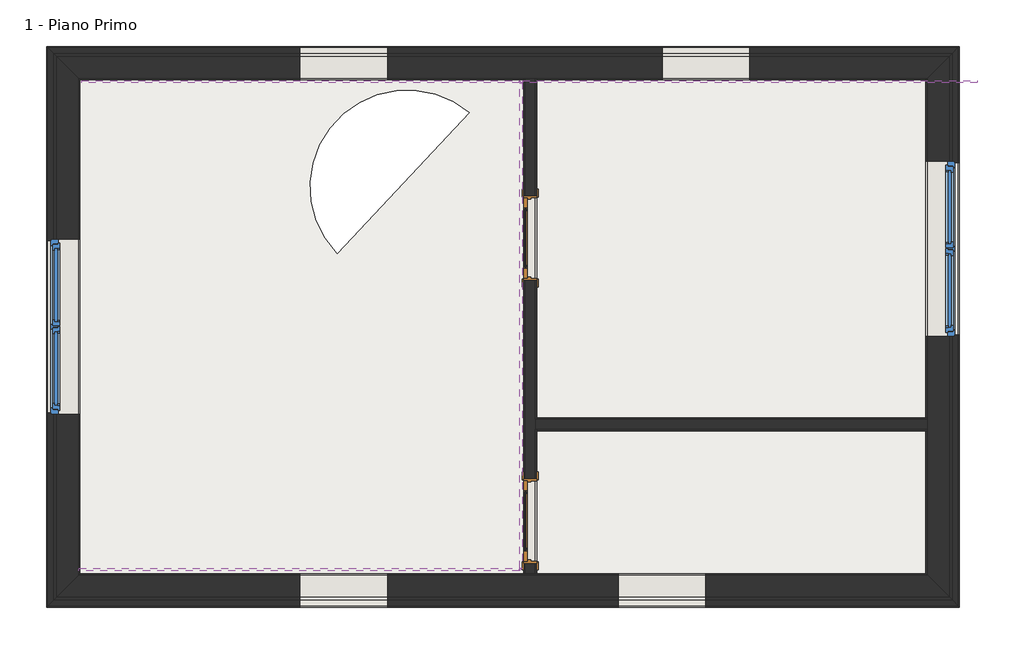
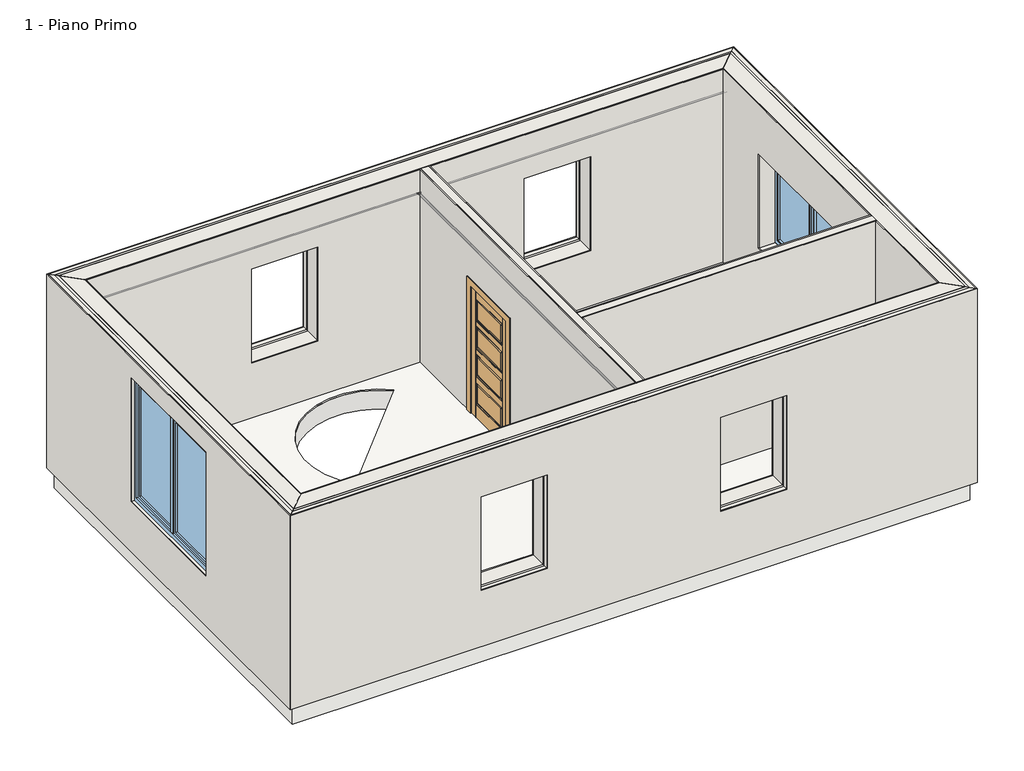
# One storey, incomplete: 6 walls, 4 pipe segments, 4 slabs, 2 doors, 2 pipe fittings, 2 windows.
"""IFC4 building model written with IfcOpenShell, lengths in millimetres."""

from ifc_helpers import new_model, si_unit, point, frame, frame_2d, origin, place, context, project, spatial, polyline, circle_curve, trimmed, segment, composite_curve, outline, extrude, faceted_brep, transform, mapped, element, save
from components import not_a_type_load_type_catalog_7697b4af, not_a_type_load_type_catalog_d574bbdc, m_gomito_generico_standard_738589b0, standard_5b2ed4d4, type_1_537f2f89, type_1_1d15f25d

model = new_model("IFC4")

# Units and contexts
model_context = context("Model", 3, world=origin())
ifc_project = project(units=[si_unit("LENGTHUNIT", "METRE", prefix="MILLI")], contexts=[model_context])

# Site, building, storey
site = spatial("IfcSite", under=ifc_project)
building = spatial("IfcBuilding", under=site)
storey = spatial("IfcBuildingStorey", under=building, Name="1 - Piano Primo", Elevation=3100.0)

# Doors
placement = place(None, origin())
not_a_type_load_type_catalog_shape = not_a_type_load_type_catalog_7697b4af(model_context)
not_a_type_load_type_catalog_2_shape = not_a_type_load_type_catalog_d574bbdc(model_context)
element("IfcDoor", 1, ObjectType="Door-Interior-Karona-K3040-4_Panel : Not A Type - Load Type Catalog", at=placement, inside=storey, context=model_context, shape_type="MappedRepresentation", body=[
    mapped(not_a_type_load_type_catalog_shape, transform((1674.6934329, 271.7316161, 3120.0), x_axis=(0.0, 1.0, 0.0), y_axis=(-1.0, 0.0, 0.0), z_axis=(0.0, 0.0, 1.0))),
    mapped(not_a_type_load_type_catalog_2_shape, transform((1674.6934329, 271.7316161, 3120.0), x_axis=(0.0, 1.0, 0.0), y_axis=(-1.0, 0.0, 0.0), z_axis=(0.0, 0.0, 1.0))),
])
element("IfcDoor", 2, ObjectType="Door-Interior-Karona-K3040-4_Panel : Not A Type - Load Type Catalog", at=placement, inside=storey, context=model_context, shape_type="MappedRepresentation", body=[
    mapped(not_a_type_load_type_catalog_shape, transform((1674.6934329, -2948.2683839, 3120.0), x_axis=(0.0, 1.0, 0.0), y_axis=(-1.0, 0.0, 0.0), z_axis=(0.0, 0.0, 1.0))),
    mapped(not_a_type_load_type_catalog_2_shape, transform((1674.6934329, -2948.2683839, 3120.0), x_axis=(0.0, 1.0, 0.0), y_axis=(-1.0, 0.0, 0.0), z_axis=(0.0, 0.0, 1.0))),
])

# Pipe fittings
m_gomito_generico_standard_shape = m_gomito_generico_standard_738589b0(model_context)
element("IfcPipeFitting", 3, ObjectType="M_Gomito - Generico : Standard", at=placement, inside=storey, context=model_context, shape_type="MappedRepresentation", body=[
    mapped(m_gomito_generico_standard_shape, transform((1569.6934329, -3503.2912821, 5843.2), x_axis=(1.0, 0.0, 0.0), y_axis=(0.0, 1.0, 0.0), z_axis=(0.0, 0.0, 1.0))),
])
standard_shape = standard_5b2ed4d4(model_context)
element("IfcPipeFitting", 4, ObjectType="M_Raccordo a T - Generico : Standard", at=placement, inside=storey, context=model_context, shape_type="MappedRepresentation", body=[
    mapped(standard_shape, transform((1569.6934329, 2050.9962179, 5843.2), x_axis=(1.0, 0.0, 0.0), y_axis=(0.0, 1.0, 0.0), z_axis=(0.0, 0.0, 1.0))),
])

# Pipe segments
element("IfcPipeSegment", 5, ObjectType="Default", at=placement, inside=storey, context=model_context, shape_type="SweptSolid", body=[
    extrude(outline(composite_curve([segment(trimmed(circle_curve(frame_2d((2050.9962179, 5843.2)), 10.668), [point((2040.3282179, 5843.2))], [point((2050.9962179, 5853.868))], False, "CARTESIAN"), True, "CONTINUOUS"), segment(trimmed(circle_curve(frame_2d((2050.9962179, 5843.2)), 10.668), [point((2050.9962179, 5853.868))], [point((2061.6642179, 5843.2))], False, "CARTESIAN"), True, "CONTINUOUS"), segment(trimmed(circle_curve(frame_2d((2050.9962179, 5843.2)), 10.668), [point((2061.6642179, 5843.2))], [point((2050.9962179, 5832.532))], False, "CARTESIAN"), True, "CONTINUOUS"), segment(trimmed(circle_curve(frame_2d((2050.9962179, 5843.2)), 10.668), [point((2050.9962179, 5832.532))], [point((2040.3282179, 5843.2))], False, "CARTESIAN"), True, "CONTINUOUS")], self_intersect=False)), frame((-3424.2844112, 0.0, 0.0), z_axis=(1.0, 0.0, 0.0), x_axis=(0.0, 1.0, 0.0)), (0.0, 0.0, 1.0), 4973.3403441),
])
element("IfcPipeSegment", 6, ObjectType="Default", at=placement, inside=storey, context=model_context, shape_type="SweptSolid", body=[
    extrude(outline(composite_curve([segment(trimmed(circle_curve(frame_2d((5843.2, 1569.6934329)), 13.335), [point((5843.2, 1556.3584329))], [point((5829.865, 1569.6934329))], False, "CARTESIAN"), True, "CONTINUOUS"), segment(trimmed(circle_curve(frame_2d((5843.2, 1569.6934329)), 13.335), [point((5829.865, 1569.6934329))], [point((5843.2, 1583.0284329))], False, "CARTESIAN"), True, "CONTINUOUS"), segment(trimmed(circle_curve(frame_2d((5843.2, 1569.6934329)), 13.335), [point((5843.2, 1583.0284329))], [point((5856.535, 1569.6934329))], False, "CARTESIAN"), True, "CONTINUOUS"), segment(trimmed(circle_curve(frame_2d((5843.2, 1569.6934329)), 13.335), [point((5856.535, 1569.6934329))], [point((5843.2, 1556.3584329))], False, "CARTESIAN"), True, "CONTINUOUS")], self_intersect=False)), frame((0.0, -3485.8287821, 0.0), z_axis=(0.0, 1.0, 0.0), x_axis=(0.0, 0.0, 1.0)), (0.0, 0.0, 1.0), 5531.1875),
])
element("IfcPipeSegment", 7, ObjectType="Default", at=placement, inside=storey, context=model_context, shape_type="SweptSolid", body=[
    extrude(outline(composite_curve([segment(trimmed(circle_curve(frame_2d((2050.9962179, 5843.2)), 10.668), [point((2040.3282179, 5843.2))], [point((2050.9962179, 5853.868))], False, "CARTESIAN"), True, "CONTINUOUS"), segment(trimmed(circle_curve(frame_2d((2050.9962179, 5843.2)), 10.668), [point((2050.9962179, 5853.868))], [point((2061.6642179, 5843.2))], False, "CARTESIAN"), True, "CONTINUOUS"), segment(trimmed(circle_curve(frame_2d((2050.9962179, 5843.2)), 10.668), [point((2061.6642179, 5843.2))], [point((2050.9962179, 5832.532))], False, "CARTESIAN"), True, "CONTINUOUS"), segment(trimmed(circle_curve(frame_2d((2050.9962179, 5843.2)), 10.668), [point((2050.9962179, 5832.532))], [point((2040.3282179, 5843.2))], False, "CARTESIAN"), True, "CONTINUOUS")], self_intersect=False)), frame((1590.3309329, 0.0, 0.0), z_axis=(1.0, 0.0, 0.0), x_axis=(0.0, 1.0, 0.0)), (0.0, 0.0, 1.0), 5171.9),
])
element("IfcPipeSegment", 8, ObjectType="Default", at=placement, inside=storey, context=model_context, shape_type="SweptSolid", body=[
    extrude(outline(composite_curve([segment(trimmed(circle_curve(frame_2d((-3503.2912821, 5843.2)), 13.335), [point((-3516.6262821, 5843.2))], [point((-3503.2912821, 5856.535))], False, "CARTESIAN"), True, "CONTINUOUS"), segment(trimmed(circle_curve(frame_2d((-3503.2912821, 5843.2)), 13.335), [point((-3503.2912821, 5856.535))], [point((-3489.9562821, 5843.2))], False, "CARTESIAN"), True, "CONTINUOUS"), segment(trimmed(circle_curve(frame_2d((-3503.2912821, 5843.2)), 13.335), [point((-3489.9562821, 5843.2))], [point((-3503.2912821, 5829.865))], False, "CARTESIAN"), True, "CONTINUOUS"), segment(trimmed(circle_curve(frame_2d((-3503.2912821, 5843.2)), 13.335), [point((-3503.2912821, 5829.865))], [point((-3516.6262821, 5843.2))], False, "CARTESIAN"), True, "CONTINUOUS")], self_intersect=False)), frame((-3456.2486331, 0.0, 0.0), z_axis=(1.0, 0.0, 0.0), x_axis=(0.0, 1.0, 0.0)), (0.0, 0.0, 1.0), 5008.479566),
])

# Slabs
element("IfcSlab", 9, ObjectType="Latero Cementizio - 30 cm", at=placement, inside=storey, context=model_context, shape_type="SweptSolid", body=[
    extrude(outline(polyline([(6479.6934329, 2376.7316161), (6479.6934329, -3853.2683839), (-3750.3065671, -3853.2683839), (-3750.3065671, 2376.7316161), (6479.6934329, 2376.7316161)]), holes=[composite_curve([segment(polyline([(-521.5388985, 95.9522878), (983.1184919, 1696.4306663)]), True, "CONTINUOUS"), segment(trimmed(circle_curve(frame_2d((274.6184661, 854.9868396)), 1100.0), [point((983.1184919, 1696.4306663))], [point((-521.5388985, 95.9522878))], True, "CARTESIAN"), True, "CONTINUOUS")], self_intersect=False)]), frame((0.0, 0.0, 2800.0), z_axis=(0.0, 0.0, 1.0), x_axis=(1.0, 0.0, 0.0)), (0.0, 0.0, 1.0), 300.0),
])
element("IfcSlab", 10, ObjectType="Piastrelle (2 cm)", at=placement, inside=storey, context=model_context, shape_type="SweptSolid", body=[
    extrude(outline(polyline([(1599.6934329, 2071.7316161), (1599.6934329, -3548.2683839), (-3445.3065671, -3548.2683839), (-3445.3065671, 2071.7316161), (1599.6934329, 2071.7316161)]), holes=[composite_curve([segment(polyline([(-521.5388985, 95.9522878), (983.1184919, 1696.4306663)]), True, "CONTINUOUS"), segment(trimmed(circle_curve(frame_2d((274.6184661, 854.9868396)), 1100.0), [point((983.1184919, 1696.4306663))], [point((-521.5388985, 95.9522878))], True, "CARTESIAN"), True, "CONTINUOUS")], self_intersect=False)]), frame((0.0, 0.0, 3100.0), z_axis=(0.0, 0.0, 1.0), x_axis=(1.0, 0.0, 0.0)), (0.0, 0.0, 1.0), 20.0),
])
element("IfcSlab", 11, ObjectType="Piastrelle (2 cm)", at=placement, inside=storey, context=model_context, shape_type="SweptSolid", body=[
    extrude(outline(polyline([(6174.6934329, 2071.7316161), (6174.6934329, -1773.2683839), (1749.6934329, -1773.2683839), (1749.6934329, 2071.7316161), (6174.6934329, 2071.7316161)])), frame((0.0, 0.0, 3100.0), z_axis=(0.0, 0.0, 1.0), x_axis=(1.0, 0.0, 0.0)), (0.0, 0.0, 1.0), 20.0),
])
element("IfcSlab", 12, ObjectType="Piastrelle (2 cm)", at=placement, inside=storey, context=model_context, shape_type="SweptSolid", body=[
    extrude(outline(polyline([(6174.6934329, -1923.2683839), (6174.6934329, -3548.2683839), (1749.6934329, -3548.2683839), (1749.6934329, -1923.2683839), (6174.6934329, -1923.2683839)])), frame((0.0, 0.0, 3100.0), z_axis=(0.0, 0.0, 1.0), x_axis=(1.0, 0.0, 0.0)), (0.0, 0.0, 1.0), 20.0),
])

# Walls
element("IfcWall", 13, ObjectType="Tamponamento Esterno - 38 cm", at=placement, inside=storey, context=model_context, shape_type="Brep", body=[
    faceted_brep([(6189.6934329, 2086.7316161, 3100.0), (-3460.3065671, 2086.7316161, 3100.0), (-3460.3065671, 2086.7316161, 6200.0), (6189.6934329, 2086.7316161, 6200.0), (54.6934329, 2086.7316161, 4000.0), (54.6934329, 2086.7316161, 5500.0), (-945.3065671, 2086.7316161, 5500.0), (-945.3065671, 2086.7316161, 4000.0), (4174.6934329, 2086.7316161, 4000.0), (4174.6934329, 2086.7316161, 5500.0), (3174.6934329, 2086.7316161, 5500.0), (3174.6934329, 2086.7316161, 4000.0), (6174.6934329, 2071.7316161, 3100.0), (-3445.3065671, 2071.7316161, 3100.0), (-3445.3065671, 2071.7316161, 6200.0), (6174.6934329, 2071.7316161, 6200.0), (54.6934329, 2071.7316161, 5500.0), (54.6934329, 2071.7316161, 4000.0), (-945.3065671, 2071.7316161, 4000.0), (-945.3065671, 2071.7316161, 5500.0), (4174.6934329, 2071.7316161, 4000.0), (3174.6934329, 2071.7316161, 4000.0), (3174.6934329, 2071.7316161, 5500.0), (4174.6934329, 2071.7316161, 5500.0)], [[[0, 1, 2, 3], [4, 5, 6, 7], [8, 9, 10, 11]], [[12, 13, 1, 0]], [[14, 15, 3, 2]], [[15, 12, 0, 3]], [[13, 14, 2, 1]], [[13, 12, 15, 14], [16, 17, 18, 19], [20, 21, 22, 23]], [[17, 16, 5, 4]], [[16, 19, 6, 5]], [[19, 18, 7, 6]], [[18, 17, 4, 7]], [[20, 23, 9, 8]], [[23, 22, 10, 9]], [[22, 21, 11, 10]], [[21, 20, 8, 11]]]),
    faceted_brep([(-3460.3065671, 2086.7316161, 3100.0), (6189.6934329, 2086.7316161, 3100.0), (6189.6934329, 2086.7316161, 6200.0), (-3460.3065671, 2086.7316161, 6200.0), (4174.6934329, 2086.7316161, 5500.0), (4174.6934329, 2086.7316161, 4000.0), (3174.6934329, 2086.7316161, 4000.0), (3174.6934329, 2086.7316161, 5500.0), (54.6934329, 2086.7316161, 5500.0), (54.6934329, 2086.7316161, 4000.0), (-945.3065671, 2086.7316161, 4000.0), (-945.3065671, 2086.7316161, 5500.0), (6439.6934329, 2336.7316161, 3100.0), (-3710.3065671, 2336.7316161, 3100.0), (-3710.3065671, 2336.7316161, 6200.0), (6439.6934329, 2336.7316161, 6200.0), (4174.6934329, 2336.7316161, 4000.0), (4174.6934329, 2336.7316161, 5500.0), (3174.6934329, 2336.7316161, 5500.0), (3174.6934329, 2336.7316161, 4000.0), (54.6934329, 2336.7316161, 4000.0), (54.6934329, 2336.7316161, 5500.0), (-945.3065671, 2336.7316161, 5500.0), (-945.3065671, 2336.7316161, 4000.0)], [[[0, 1, 2, 3], [4, 5, 6, 7], [8, 9, 10, 11]], [[12, 13, 14, 15], [16, 17, 18, 19], [20, 21, 22, 23]], [[0, 13, 12, 1]], [[2, 15, 14, 3]], [[1, 12, 15, 2]], [[13, 0, 3, 14]], [[20, 9, 8, 21]], [[21, 8, 11, 22]], [[22, 11, 10, 23]], [[9, 20, 23, 10]], [[16, 5, 4, 17]], [[17, 4, 7, 18]], [[18, 7, 6, 19]], [[5, 16, 19, 6]]]),
    faceted_brep([(6539.6934329, 2436.7316161, 3100.0), (-3810.3065671, 2436.7316161, 3100.0), (-3810.3065671, 2436.7316161, 6200.0), (6539.6934329, 2436.7316161, 6200.0), (4174.6934329, 2436.7316161, 4000.0), (4174.6934329, 2436.7316161, 5500.0), (3174.6934329, 2436.7316161, 5500.0), (3174.6934329, 2436.7316161, 4000.0), (54.6934329, 2436.7316161, 4000.0), (54.6934329, 2436.7316161, 5500.0), (-945.3065671, 2436.7316161, 5500.0), (-945.3065671, 2436.7316161, 4000.0), (-3750.3065671, 2376.7316161, 3100.0), (6479.6934329, 2376.7316161, 3100.0), (6479.6934329, 2376.7316161, 6200.0), (-3750.3065671, 2376.7316161, 6200.0), (4174.6934329, 2376.7316161, 5500.0), (4174.6934329, 2376.7316161, 4000.0), (3174.6934329, 2376.7316161, 4000.0), (3174.6934329, 2376.7316161, 5500.0), (54.6934329, 2376.7316161, 5500.0), (54.6934329, 2376.7316161, 4000.0), (-945.3065671, 2376.7316161, 4000.0), (-945.3065671, 2376.7316161, 5500.0)], [[[0, 1, 2, 3], [4, 5, 6, 7], [8, 9, 10, 11]], [[12, 13, 14, 15], [16, 17, 18, 19], [20, 21, 22, 23]], [[12, 1, 0, 13]], [[14, 3, 2, 15]], [[13, 0, 3, 14]], [[1, 12, 15, 2]], [[8, 21, 20, 9]], [[9, 20, 23, 10]], [[10, 23, 22, 11]], [[21, 8, 11, 22]], [[4, 17, 16, 5]], [[5, 16, 19, 6]], [[6, 19, 18, 7]], [[17, 4, 7, 18]]]),
    faceted_brep([(-3810.3065671, 2436.7316161, 3100.0), (6539.6934329, 2436.7316161, 3100.0), (6539.6934329, 2436.7316161, 6200.0), (-3810.3065671, 2436.7316161, 6200.0), (54.6934329, 2436.7316161, 5500.0), (54.6934329, 2436.7316161, 4000.0), (-945.3065671, 2436.7316161, 4000.0), (-945.3065671, 2436.7316161, 5500.0), (4174.6934329, 2436.7316161, 5500.0), (4174.6934329, 2436.7316161, 4000.0), (3174.6934329, 2436.7316161, 4000.0), (3174.6934329, 2436.7316161, 5500.0), (-3825.3065671, 2451.7316161, 3100.0), (6554.6934329, 2451.7316161, 3100.0), (6554.6934329, 2451.7316161, 6200.0), (-3825.3065671, 2451.7316161, 6200.0), (54.6934329, 2451.7316161, 4000.0), (54.6934329, 2451.7316161, 5500.0), (-945.3065671, 2451.7316161, 5500.0), (-945.3065671, 2451.7316161, 4000.0), (4174.6934329, 2451.7316161, 4000.0), (4174.6934329, 2451.7316161, 5500.0), (3174.6934329, 2451.7316161, 5500.0), (3174.6934329, 2451.7316161, 4000.0)], [[[0, 1, 2, 3], [4, 5, 6, 7], [8, 9, 10, 11]], [[12, 13, 1, 0]], [[14, 15, 3, 2]], [[13, 14, 2, 1]], [[15, 12, 0, 3]], [[13, 12, 15, 14], [16, 17, 18, 19], [20, 21, 22, 23]], [[17, 16, 5, 4]], [[18, 17, 4, 7]], [[19, 18, 7, 6]], [[16, 19, 6, 5]], [[21, 20, 9, 8]], [[22, 21, 8, 11]], [[23, 22, 11, 10]], [[20, 23, 10, 9]]]),
    faceted_brep([(6479.6934329, 2376.7316161, 3100.0), (-3750.3065671, 2376.7316161, 3100.0), (-3750.3065671, 2376.7316161, 6200.0), (6479.6934329, 2376.7316161, 6200.0), (4174.6934329, 2376.7316161, 4000.0), (4174.6934329, 2376.7316161, 5500.0), (3174.6934329, 2376.7316161, 5500.0), (3174.6934329, 2376.7316161, 4000.0), (54.6934329, 2376.7316161, 4000.0), (54.6934329, 2376.7316161, 5500.0), (-945.3065671, 2376.7316161, 5500.0), (-945.3065671, 2376.7316161, 4000.0), (-3710.3065671, 2336.7316161, 3100.0), (6439.6934329, 2336.7316161, 3100.0), (6439.6934329, 2336.7316161, 6200.0), (-3710.3065671, 2336.7316161, 6200.0), (4174.6934329, 2336.7316161, 5500.0), (4174.6934329, 2336.7316161, 4000.0), (3174.6934329, 2336.7316161, 4000.0), (3174.6934329, 2336.7316161, 5500.0), (54.6934329, 2336.7316161, 5500.0), (54.6934329, 2336.7316161, 4000.0), (-945.3065671, 2336.7316161, 4000.0), (-945.3065671, 2336.7316161, 5500.0)], [[[0, 1, 2, 3], [4, 5, 6, 7], [8, 9, 10, 11]], [[12, 13, 14, 15], [16, 17, 18, 19], [20, 21, 22, 23]], [[12, 1, 0, 13]], [[14, 3, 2, 15]], [[13, 0, 3, 14]], [[1, 12, 15, 2]], [[8, 21, 20, 9]], [[9, 20, 23, 10]], [[10, 23, 22, 11]], [[21, 8, 11, 22]], [[4, 17, 16, 5]], [[5, 16, 19, 6]], [[6, 19, 18, 7]], [[17, 4, 7, 18]]]),
])
element("IfcWall", 14, ObjectType="Tamponamento Esterno - 38 cm", at=placement, inside=storey, context=model_context, shape_type="Brep", body=[
    faceted_brep([(6189.6934329, -3563.2683839, 3100.0), (6189.6934329, 2086.7316161, 3100.0), (6189.6934329, 2086.7316161, 6200.0), (6189.6934329, -3563.2683839, 6200.0), (6189.6934329, -850.7683839, 5400.0), (6189.6934329, 1149.2316161, 5400.0), (6189.6934329, 1149.2316161, 3900.0), (6189.6934329, -850.7683839, 3900.0), (6174.6934329, -3548.2683839, 3100.0), (6174.6934329, 2071.7316161, 3100.0), (6174.6934329, 2071.7316161, 6200.0), (6174.6934329, -3548.2683839, 6200.0), (6174.6934329, 1149.2316161, 5400.0), (6174.6934329, -850.7683839, 5400.0), (6174.6934329, -850.7683839, 3900.0), (6174.6934329, 1149.2316161, 3900.0)], [[[0, 1, 2, 3], [4, 5, 6, 7]], [[8, 9, 1, 0]], [[10, 11, 3, 2]], [[9, 10, 2, 1]], [[11, 8, 0, 3]], [[9, 8, 11, 10], [12, 13, 14, 15]], [[13, 12, 5, 4]], [[12, 15, 6, 5]], [[15, 14, 7, 6]], [[14, 13, 4, 7]]]),
    faceted_brep([(6189.6934329, 2086.7316161, 3100.0), (6189.6934329, -3563.2683839, 3100.0), (6189.6934329, -3563.2683839, 6200.0), (6189.6934329, 2086.7316161, 6200.0), (6189.6934329, 1149.2316161, 5400.0), (6189.6934329, -850.7683839, 5400.0), (6189.6934329, -850.7683839, 3900.0), (6189.6934329, 1149.2316161, 3900.0), (6439.6934329, -3813.2683839, 3100.0), (6439.6934329, 2336.7316161, 3100.0), (6439.6934329, 2336.7316161, 6200.0), (6439.6934329, -3813.2683839, 6200.0), (6439.6934329, -850.7683839, 5400.0), (6439.6934329, 1149.2316161, 5400.0), (6439.6934329, 1149.2316161, 3900.0), (6439.6934329, -850.7683839, 3900.0)], [[[0, 1, 2, 3], [4, 5, 6, 7]], [[8, 9, 10, 11], [12, 13, 14, 15]], [[0, 9, 8, 1]], [[2, 11, 10, 3]], [[9, 0, 3, 10]], [[1, 8, 11, 2]], [[12, 5, 4, 13]], [[13, 4, 7, 14]], [[14, 7, 6, 15]], [[5, 12, 15, 6]]]),
    faceted_brep([(6539.6934329, -3913.2683839, 3100.0), (6539.6934329, 2436.7316161, 3100.0), (6539.6934329, 2436.7316161, 6200.0), (6539.6934329, -3913.2683839, 6200.0), (6539.6934329, 1129.2316161, 3900.0), (6539.6934329, -830.7683839, 3900.0), (6539.6934329, -830.7683839, 5380.0), (6539.6934329, 1129.2316161, 5380.0), (6479.6934329, 2376.7316161, 3100.0), (6479.6934329, -3853.2683839, 3100.0), (6479.6934329, -3853.2683839, 6200.0), (6479.6934329, 2376.7316161, 6200.0), (6479.6934329, 1149.2316161, 5400.0), (6479.6934329, -850.7683839, 5400.0), (6479.6934329, -850.7683839, 3900.0), (6479.6934329, 1149.2316161, 3900.0), (6504.6934329, 1149.2316161, 5400.0), (6504.6934329, -850.7683839, 5400.0), (6504.6934329, 1149.2316161, 3900.0), (6504.6934329, 1129.2316161, 3900.0), (6504.6934329, -850.7683839, 3900.0), (6504.6934329, -830.7683839, 3900.0), (6504.6934329, -830.7683839, 5380.0), (6504.6934329, 1129.2316161, 5380.0), (6504.6934329, 1129.2316161, 3910.0), (6504.6934329, -830.7683839, 3910.0)], [[[0, 1, 2, 3], [4, 5, 6, 7]], [[8, 9, 10, 11], [12, 13, 14, 15]], [[8, 1, 0, 9]], [[10, 3, 2, 11]], [[1, 8, 11, 2]], [[9, 0, 3, 10]], [[16, 17, 13, 12]], [[18, 16, 12, 15]], [[19, 18, 15, 14, 20, 21, 5, 4]], [[17, 20, 14, 13]], [[22, 23, 7, 6]], [[24, 19, 4, 7, 23]], [[25, 22, 6, 5, 21]], [[17, 16, 18, 19, 24, 23, 22, 25, 21, 20]]]),
    faceted_brep([(6539.6934329, 2436.7316161, 3100.0), (6539.6934329, -3913.2683839, 3100.0), (6539.6934329, -3913.2683839, 6200.0), (6539.6934329, 2436.7316161, 6200.0), (6539.6934329, -830.7683839, 3900.0), (6539.6934329, 1129.2316161, 3900.0), (6539.6934329, 1129.2316161, 5380.0), (6539.6934329, -830.7683839, 5380.0), (6554.6934329, 2451.7316161, 3100.0), (6554.6934329, -3928.2683839, 3100.0), (6554.6934329, -3928.2683839, 6200.0), (6554.6934329, 2451.7316161, 6200.0), (6554.6934329, 1129.2316161, 3900.0), (6554.6934329, -830.7683839, 3900.0), (6554.6934329, -830.7683839, 5380.0), (6554.6934329, 1129.2316161, 5380.0)], [[[0, 1, 2, 3], [4, 5, 6, 7]], [[8, 9, 1, 0]], [[10, 11, 3, 2]], [[11, 8, 0, 3]], [[9, 10, 2, 1]], [[9, 8, 11, 10], [12, 13, 14, 15]], [[13, 12, 5, 4]], [[15, 14, 7, 6]], [[12, 15, 6, 5]], [[14, 13, 4, 7]]]),
    faceted_brep([(6479.6934329, -3853.2683839, 3100.0), (6479.6934329, 2376.7316161, 3100.0), (6479.6934329, 2376.7316161, 6200.0), (6479.6934329, -3853.2683839, 6200.0), (6479.6934329, -850.7683839, 5400.0), (6479.6934329, 1149.2316161, 5400.0), (6479.6934329, 1149.2316161, 3900.0), (6479.6934329, -850.7683839, 3900.0), (6439.6934329, 2336.7316161, 3100.0), (6439.6934329, -3813.2683839, 3100.0), (6439.6934329, -3813.2683839, 6200.0), (6439.6934329, 2336.7316161, 6200.0), (6439.6934329, 1149.2316161, 5400.0), (6439.6934329, -850.7683839, 5400.0), (6439.6934329, -850.7683839, 3900.0), (6439.6934329, 1149.2316161, 3900.0)], [[[0, 1, 2, 3], [4, 5, 6, 7]], [[8, 9, 10, 11], [12, 13, 14, 15]], [[8, 1, 0, 9]], [[10, 3, 2, 11]], [[1, 8, 11, 2]], [[9, 0, 3, 10]], [[4, 13, 12, 5]], [[5, 12, 15, 6]], [[6, 15, 14, 7]], [[13, 4, 7, 14]]]),
])
element("IfcWall", 15, ObjectType="Tamponamento Esterno - 38 cm", at=placement, inside=storey, context=model_context, shape_type="Brep", body=[
    faceted_brep([(-3460.3065671, -3563.2683839, 3100.0), (6189.6934329, -3563.2683839, 3100.0), (6189.6934329, -3563.2683839, 6200.0), (-3460.3065671, -3563.2683839, 6200.0), (2674.6934329, -3563.2683839, 4000.0), (2674.6934329, -3563.2683839, 5500.0), (3674.6934329, -3563.2683839, 5500.0), (3674.6934329, -3563.2683839, 4000.0), (54.6934329, -3563.2683839, 5500.0), (54.6934329, -3563.2683839, 4000.0), (-945.3065671, -3563.2683839, 4000.0), (-945.3065671, -3563.2683839, 5500.0), (-3445.3065671, -3548.2683839, 3100.0), (6174.6934329, -3548.2683839, 3100.0), (6174.6934329, -3548.2683839, 6200.0), (-3445.3065671, -3548.2683839, 6200.0), (54.6934329, -3548.2683839, 4000.0), (54.6934329, -3548.2683839, 5500.0), (-945.3065671, -3548.2683839, 5500.0), (-945.3065671, -3548.2683839, 4000.0), (2674.6934329, -3548.2683839, 5500.0), (2674.6934329, -3548.2683839, 4000.0), (3674.6934329, -3548.2683839, 4000.0), (3674.6934329, -3548.2683839, 5500.0)], [[[0, 1, 2, 3], [4, 5, 6, 7], [8, 9, 10, 11]], [[12, 13, 1, 0]], [[14, 15, 3, 2]], [[13, 14, 2, 1]], [[15, 12, 0, 3]], [[13, 12, 15, 14], [16, 17, 18, 19], [20, 21, 22, 23]], [[21, 20, 5, 4]], [[20, 23, 6, 5]], [[23, 22, 7, 6]], [[22, 21, 4, 7]], [[17, 16, 9, 8]], [[18, 17, 8, 11]], [[19, 18, 11, 10]], [[16, 19, 10, 9]]]),
    faceted_brep([(6189.6934329, -3563.2683839, 3100.0), (-3460.3065671, -3563.2683839, 3100.0), (-3460.3065671, -3563.2683839, 6200.0), (6189.6934329, -3563.2683839, 6200.0), (54.6934329, -3563.2683839, 4000.0), (54.6934329, -3563.2683839, 5500.0), (-945.3065671, -3563.2683839, 5500.0), (-945.3065671, -3563.2683839, 4000.0), (2674.6934329, -3563.2683839, 5500.0), (2674.6934329, -3563.2683839, 4000.0), (3674.6934329, -3563.2683839, 4000.0), (3674.6934329, -3563.2683839, 5500.0), (-3710.3065671, -3813.2683839, 3100.0), (6439.6934329, -3813.2683839, 3100.0), (6439.6934329, -3813.2683839, 6200.0), (-3710.3065671, -3813.2683839, 6200.0), (54.6934329, -3813.2683839, 5500.0), (54.6934329, -3813.2683839, 4000.0), (-945.3065671, -3813.2683839, 4000.0), (-945.3065671, -3813.2683839, 5500.0), (2674.6934329, -3813.2683839, 4000.0), (2674.6934329, -3813.2683839, 5500.0), (3674.6934329, -3813.2683839, 5500.0), (3674.6934329, -3813.2683839, 4000.0)], [[[0, 1, 2, 3], [4, 5, 6, 7], [8, 9, 10, 11]], [[12, 13, 14, 15], [16, 17, 18, 19], [20, 21, 22, 23]], [[0, 13, 12, 1]], [[2, 15, 14, 3]], [[13, 0, 3, 14]], [[1, 12, 15, 2]], [[20, 9, 8, 21]], [[21, 8, 11, 22]], [[22, 11, 10, 23]], [[9, 20, 23, 10]], [[4, 17, 16, 5]], [[5, 16, 19, 6]], [[6, 19, 18, 7]], [[17, 4, 7, 18]]]),
    faceted_brep([(-3810.3065671, -3913.2683839, 3100.0), (6539.6934329, -3913.2683839, 3100.0), (6539.6934329, -3913.2683839, 6200.0), (-3810.3065671, -3913.2683839, 6200.0), (54.6934329, -3913.2683839, 5500.0), (54.6934329, -3913.2683839, 4000.0), (-945.3065671, -3913.2683839, 4000.0), (-945.3065671, -3913.2683839, 5500.0), (2674.6934329, -3913.2683839, 4000.0), (2674.6934329, -3913.2683839, 5500.0), (3674.6934329, -3913.2683839, 5500.0), (3674.6934329, -3913.2683839, 4000.0), (6479.6934329, -3853.2683839, 3100.0), (-3750.3065671, -3853.2683839, 3100.0), (-3750.3065671, -3853.2683839, 6200.0), (6479.6934329, -3853.2683839, 6200.0), (54.6934329, -3853.2683839, 4000.0), (54.6934329, -3853.2683839, 5500.0), (-945.3065671, -3853.2683839, 5500.0), (-945.3065671, -3853.2683839, 4000.0), (2674.6934329, -3853.2683839, 5500.0), (2674.6934329, -3853.2683839, 4000.0), (3674.6934329, -3853.2683839, 4000.0), (3674.6934329, -3853.2683839, 5500.0)], [[[0, 1, 2, 3], [4, 5, 6, 7], [8, 9, 10, 11]], [[12, 13, 14, 15], [16, 17, 18, 19], [20, 21, 22, 23]], [[12, 1, 0, 13]], [[14, 3, 2, 15]], [[1, 12, 15, 2]], [[13, 0, 3, 14]], [[8, 21, 20, 9]], [[9, 20, 23, 10]], [[10, 23, 22, 11]], [[21, 8, 11, 22]], [[16, 5, 4, 17]], [[17, 4, 7, 18]], [[18, 7, 6, 19]], [[5, 16, 19, 6]]]),
    faceted_brep([(6539.6934329, -3913.2683839, 3100.0), (-3810.3065671, -3913.2683839, 3100.0), (-3810.3065671, -3913.2683839, 6200.0), (6539.6934329, -3913.2683839, 6200.0), (2674.6934329, -3913.2683839, 5500.0), (2674.6934329, -3913.2683839, 4000.0), (3674.6934329, -3913.2683839, 4000.0), (3674.6934329, -3913.2683839, 5500.0), (54.6934329, -3913.2683839, 4000.0), (54.6934329, -3913.2683839, 5500.0), (-945.3065671, -3913.2683839, 5500.0), (-945.3065671, -3913.2683839, 4000.0), (6554.6934329, -3928.2683839, 3100.0), (-3825.3065671, -3928.2683839, 3100.0), (-3825.3065671, -3928.2683839, 6200.0), (6554.6934329, -3928.2683839, 6200.0), (54.6934329, -3928.2683839, 5500.0), (54.6934329, -3928.2683839, 4000.0), (-945.3065671, -3928.2683839, 4000.0), (-945.3065671, -3928.2683839, 5500.0), (2674.6934329, -3928.2683839, 4000.0), (2674.6934329, -3928.2683839, 5500.0), (3674.6934329, -3928.2683839, 5500.0), (3674.6934329, -3928.2683839, 4000.0)], [[[0, 1, 2, 3], [4, 5, 6, 7], [8, 9, 10, 11]], [[12, 13, 1, 0]], [[14, 15, 3, 2]], [[15, 12, 0, 3]], [[13, 14, 2, 1]], [[13, 12, 15, 14], [16, 17, 18, 19], [20, 21, 22, 23]], [[21, 20, 5, 4]], [[22, 21, 4, 7]], [[23, 22, 7, 6]], [[20, 23, 6, 5]], [[17, 16, 9, 8]], [[16, 19, 10, 9]], [[19, 18, 11, 10]], [[18, 17, 8, 11]]]),
    faceted_brep([(-3750.3065671, -3853.2683839, 3100.0), (6479.6934329, -3853.2683839, 3100.0), (6479.6934329, -3853.2683839, 6200.0), (-3750.3065671, -3853.2683839, 6200.0), (54.6934329, -3853.2683839, 5500.0), (54.6934329, -3853.2683839, 4000.0), (-945.3065671, -3853.2683839, 4000.0), (-945.3065671, -3853.2683839, 5500.0), (2674.6934329, -3853.2683839, 4000.0), (2674.6934329, -3853.2683839, 5500.0), (3674.6934329, -3853.2683839, 5500.0), (3674.6934329, -3853.2683839, 4000.0), (6439.6934329, -3813.2683839, 3100.0), (-3710.3065671, -3813.2683839, 3100.0), (-3710.3065671, -3813.2683839, 6200.0), (6439.6934329, -3813.2683839, 6200.0), (54.6934329, -3813.2683839, 4000.0), (54.6934329, -3813.2683839, 5500.0), (-945.3065671, -3813.2683839, 5500.0), (-945.3065671, -3813.2683839, 4000.0), (2674.6934329, -3813.2683839, 5500.0), (2674.6934329, -3813.2683839, 4000.0), (3674.6934329, -3813.2683839, 4000.0), (3674.6934329, -3813.2683839, 5500.0)], [[[0, 1, 2, 3], [4, 5, 6, 7], [8, 9, 10, 11]], [[12, 13, 14, 15], [16, 17, 18, 19], [20, 21, 22, 23]], [[12, 1, 0, 13]], [[14, 3, 2, 15]], [[1, 12, 15, 2]], [[13, 0, 3, 14]], [[8, 21, 20, 9]], [[9, 20, 23, 10]], [[10, 23, 22, 11]], [[21, 8, 11, 22]], [[16, 5, 4, 17]], [[17, 4, 7, 18]], [[18, 7, 6, 19]], [[5, 16, 19, 6]]]),
])
element("IfcWall", 16, ObjectType="Tamponamento Esterno - 38 cm", at=placement, inside=storey, context=model_context, shape_type="Brep", body=[
    faceted_brep([(-3460.3065671, 2086.7316161, 3100.0), (-3460.3065671, -3563.2683839, 3100.0), (-3460.3065671, -3563.2683839, 6200.0), (-3460.3065671, 2086.7316161, 6200.0), (-3460.3065671, 261.7316161, 5900.0), (-3460.3065671, -1738.2683839, 5900.0), (-3460.3065671, -1738.2683839, 3900.0), (-3460.3065671, 261.7316161, 3900.0), (-3445.3065671, 2071.7316161, 3100.0), (-3445.3065671, -3548.2683839, 3100.0), (-3445.3065671, -3548.2683839, 6200.0), (-3445.3065671, 2071.7316161, 6200.0), (-3445.3065671, -1738.2683839, 5900.0), (-3445.3065671, 261.7316161, 5900.0), (-3445.3065671, 261.7316161, 3900.0), (-3445.3065671, -1738.2683839, 3900.0)], [[[0, 1, 2, 3], [4, 5, 6, 7]], [[8, 9, 1, 0]], [[10, 11, 3, 2]], [[11, 8, 0, 3]], [[9, 10, 2, 1]], [[9, 8, 11, 10], [12, 13, 14, 15]], [[13, 12, 5, 4]], [[14, 13, 4, 7]], [[15, 14, 7, 6]], [[12, 15, 6, 5]]]),
    faceted_brep([(-3460.3065671, -3563.2683839, 3100.0), (-3460.3065671, 2086.7316161, 3100.0), (-3460.3065671, 2086.7316161, 6200.0), (-3460.3065671, -3563.2683839, 6200.0), (-3460.3065671, -1738.2683839, 5900.0), (-3460.3065671, 261.7316161, 5900.0), (-3460.3065671, 261.7316161, 3900.0), (-3460.3065671, -1738.2683839, 3900.0), (-3710.3065671, 2336.7316161, 3100.0), (-3710.3065671, -3813.2683839, 3100.0), (-3710.3065671, -3813.2683839, 6200.0), (-3710.3065671, 2336.7316161, 6200.0), (-3710.3065671, 261.7316161, 5900.0), (-3710.3065671, -1738.2683839, 5900.0), (-3710.3065671, -1738.2683839, 3900.0), (-3710.3065671, 261.7316161, 3900.0)], [[[0, 1, 2, 3], [4, 5, 6, 7]], [[8, 9, 10, 11], [12, 13, 14, 15]], [[0, 9, 8, 1]], [[2, 11, 10, 3]], [[1, 8, 11, 2]], [[9, 0, 3, 10]], [[4, 13, 12, 5]], [[5, 12, 15, 6]], [[6, 15, 14, 7]], [[13, 4, 7, 14]]]),
    faceted_brep([(-3810.3065671, 2436.7316161, 3100.0), (-3810.3065671, -3913.2683839, 3100.0), (-3810.3065671, -3913.2683839, 6200.0), (-3810.3065671, 2436.7316161, 6200.0), (-3810.3065671, -1718.2683839, 3900.0), (-3810.3065671, 241.7316161, 3900.0), (-3810.3065671, 241.7316161, 5880.0), (-3810.3065671, -1718.2683839, 5880.0), (-3750.3065671, -3853.2683839, 3100.0), (-3750.3065671, 2376.7316161, 3100.0), (-3750.3065671, 2376.7316161, 6200.0), (-3750.3065671, -3853.2683839, 6200.0), (-3750.3065671, -1738.2683839, 5900.0), (-3750.3065671, 261.7316161, 5900.0), (-3750.3065671, 261.7316161, 3900.0), (-3750.3065671, -1738.2683839, 3900.0), (-3775.3065671, -1738.2683839, 5900.0), (-3775.3065671, 261.7316161, 5900.0), (-3775.3065671, 261.7316161, 3900.0), (-3775.3065671, -1718.2683839, 3900.0), (-3775.3065671, -1738.2683839, 3900.0), (-3775.3065671, 241.7316161, 3900.0), (-3775.3065671, 241.7316161, 5880.0), (-3775.3065671, -1718.2683839, 5880.0), (-3775.3065671, 241.7316161, 3910.0), (-3775.3065671, -1718.2683839, 3910.0)], [[[0, 1, 2, 3], [4, 5, 6, 7]], [[8, 9, 10, 11], [12, 13, 14, 15]], [[8, 1, 0, 9]], [[10, 3, 2, 11]], [[9, 0, 3, 10]], [[1, 8, 11, 2]], [[16, 17, 13, 12]], [[17, 18, 14, 13]], [[19, 20, 15, 14, 18, 21, 5, 4]], [[20, 16, 12, 15]], [[22, 23, 7, 6]], [[24, 22, 6, 5, 21]], [[25, 19, 4, 7, 23]], [[16, 20, 19, 25, 23, 22, 24, 21, 18, 17]]]),
    faceted_brep([(-3810.3065671, -3913.2683839, 3100.0), (-3810.3065671, 2436.7316161, 3100.0), (-3810.3065671, 2436.7316161, 6200.0), (-3810.3065671, -3913.2683839, 6200.0), (-3810.3065671, 241.7316161, 3900.0), (-3810.3065671, -1718.2683839, 3900.0), (-3810.3065671, -1718.2683839, 5880.0), (-3810.3065671, 241.7316161, 5880.0), (-3825.3065671, -3928.2683839, 3100.0), (-3825.3065671, 2451.7316161, 3100.0), (-3825.3065671, 2451.7316161, 6200.0), (-3825.3065671, -3928.2683839, 6200.0), (-3825.3065671, -1718.2683839, 3900.0), (-3825.3065671, 241.7316161, 3900.0), (-3825.3065671, 241.7316161, 5880.0), (-3825.3065671, -1718.2683839, 5880.0)], [[[0, 1, 2, 3], [4, 5, 6, 7]], [[8, 9, 1, 0]], [[10, 11, 3, 2]], [[9, 10, 2, 1]], [[11, 8, 0, 3]], [[9, 8, 11, 10], [12, 13, 14, 15]], [[13, 12, 5, 4]], [[15, 14, 7, 6]], [[14, 13, 4, 7]], [[12, 15, 6, 5]]]),
    faceted_brep([(-3750.3065671, 2376.7316161, 3100.0), (-3750.3065671, -3853.2683839, 3100.0), (-3750.3065671, -3853.2683839, 6200.0), (-3750.3065671, 2376.7316161, 6200.0), (-3750.3065671, 261.7316161, 5900.0), (-3750.3065671, -1738.2683839, 5900.0), (-3750.3065671, -1738.2683839, 3900.0), (-3750.3065671, 261.7316161, 3900.0), (-3710.3065671, -3813.2683839, 3100.0), (-3710.3065671, 2336.7316161, 3100.0), (-3710.3065671, 2336.7316161, 6200.0), (-3710.3065671, -3813.2683839, 6200.0), (-3710.3065671, -1738.2683839, 5900.0), (-3710.3065671, 261.7316161, 5900.0), (-3710.3065671, 261.7316161, 3900.0), (-3710.3065671, -1738.2683839, 3900.0)], [[[0, 1, 2, 3], [4, 5, 6, 7]], [[8, 9, 10, 11], [12, 13, 14, 15]], [[8, 1, 0, 9]], [[10, 3, 2, 11]], [[9, 0, 3, 10]], [[1, 8, 11, 2]], [[12, 5, 4, 13]], [[13, 4, 7, 14]], [[14, 7, 6, 15]], [[5, 12, 15, 6]]]),
])
element("IfcWall", 17, ObjectType="Tramezza - 15 cm", at=placement, inside=storey, context=model_context, shape_type="SolidModel", body=[
    extrude(outline(polyline([(2086.7316161, 3100.0), (-3563.2683839, 3100.0), (-3563.2683839, 6200.0), (2086.7316161, 6200.0), (2086.7316161, 3100.0)]), holes=[polyline([(753.1409911, 3120.0), (753.1409911, 5176.209375), (-209.6777589, 5176.209375), (-209.6777589, 3120.0), (753.1409911, 3120.0)]), polyline([(-2466.8590089, 3120.0), (-2466.8590089, 5176.209375), (-3429.6777589, 5176.209375), (-3429.6777589, 3120.0), (-2466.8590089, 3120.0)])]), frame((1599.6934329, 0.0, 0.0), z_axis=(1.0, 0.0, 0.0), x_axis=(0.0, 1.0, 0.0)), (0.0, 0.0, 1.0), 15.0),
    faceted_brep([(1734.6934329, -3563.2683839, 6200.0), (1749.6934329, -3563.2683839, 6200.0), (1749.6934329, -1923.2683839, 6200.0), (1749.6934329, -1908.2683839, 6200.0), (1734.6934329, -1908.2683839, 6200.0), (1734.6934329, -2466.8590089, 5176.209375), (1734.6934329, -2466.8590089, 3120.0), (1749.6934329, -2466.8590089, 3120.0), (1749.6934329, -2466.8590089, 5176.209375), (1734.6934329, -3429.6777589, 5176.209375), (1749.6934329, -3429.6777589, 5176.209375), (1734.6934329, -3429.6777589, 3120.0), (1749.6934329, -3429.6777589, 3120.0), (1749.6934329, -3563.2683839, 3100.0), (1749.6934329, -1923.2683839, 3100.0), (1749.6934329, -1908.2683839, 3100.0), (1734.6934329, -3563.2683839, 3100.0), (1734.6934329, -1908.2683839, 3100.0)], [[[0, 1, 2, 3, 4]], [[5, 6, 7, 8]], [[9, 5, 8, 10]], [[11, 9, 10, 12]], [[13, 14, 15, 3, 2, 1], [8, 7, 12, 10]], [[16, 0, 4, 17], [6, 5, 9, 11]], [[0, 16, 13, 1]], [[17, 4, 3, 15]], [[14, 13, 16, 17, 15]], [[6, 11, 12, 7]]]),
    faceted_brep([(1734.6934329, 2086.7316161, 6200.0), (1734.6934329, 2086.7316161, 3100.0), (1734.6934329, -1788.2683839, 3100.0), (1734.6934329, -1788.2683839, 6200.0), (1734.6934329, 753.1409911, 3120.0), (1734.6934329, 753.1409911, 5176.209375), (1734.6934329, -209.6777589, 5176.209375), (1734.6934329, -209.6777589, 3120.0), (1749.6934329, 2086.7316161, 3100.0), (1749.6934329, -1773.2683839, 3100.0), (1749.6934329, -1788.2683839, 3100.0), (1749.6934329, 753.1409911, 3120.0), (1749.6934329, 753.1409911, 5176.209375), (1749.6934329, -209.6777589, 5176.209375), (1749.6934329, -209.6777589, 3120.0), (1749.6934329, -1788.2683839, 6200.0), (1749.6934329, 2086.7316161, 6200.0), (1749.6934329, -1773.2683839, 6200.0)], [[[0, 1, 2, 3], [4, 5, 6, 7]], [[1, 8, 9, 10, 2]], [[5, 4, 11, 12]], [[6, 5, 12, 13]], [[7, 6, 13, 14]], [[3, 2, 10, 15]], [[9, 8, 16, 17, 15, 10], [12, 11, 14, 13]], [[17, 16, 0, 3, 15]], [[1, 0, 16, 8]], [[4, 7, 14, 11]]]),
    extrude(outline(polyline([(2086.7316161, 3100.0), (-3563.2683839, 3100.0), (-3563.2683839, 6200.0), (2086.7316161, 6200.0), (2086.7316161, 3100.0)]), holes=[polyline([(-2466.8590089, 3120.0), (-2466.8590089, 5176.209375), (-3429.6777589, 5176.209375), (-3429.6777589, 3120.0), (-2466.8590089, 3120.0)]), polyline([(753.1409911, 3120.0), (753.1409911, 5176.209375), (-209.6777589, 5176.209375), (-209.6777589, 3120.0), (753.1409911, 3120.0)])]), frame((1614.6934329, 0.0, 0.0), z_axis=(1.0, 0.0, 0.0), x_axis=(0.0, 1.0, 0.0)), (0.0, 0.0, 1.0), 120.0),
])
element("IfcWall", 18, ObjectType="Tramezza - 15 cm", at=placement, inside=storey, context=model_context, shape_type="SweptSolid", body=[
    extrude(outline(polyline([(6189.6934329, -1923.2683839), (1749.6934329, -1923.2683839), (1749.6934329, -1908.2683839), (6189.6934329, -1908.2683839), (6189.6934329, -1923.2683839)])), frame((0.0, 0.0, 3100.0), z_axis=(0.0, 0.0, 1.0), x_axis=(1.0, 0.0, 0.0)), (0.0, 0.0, 1.0), 3100.0),
    extrude(outline(polyline([(1749.6934329, -1773.2683839), (6189.6934329, -1773.2683839), (6189.6934329, -1788.2683839), (1749.6934329, -1788.2683839), (1749.6934329, -1773.2683839)])), frame((0.0, 0.0, 3100.0), z_axis=(0.0, 0.0, 1.0), x_axis=(1.0, 0.0, 0.0)), (0.0, 0.0, 1.0), 3100.0),
    extrude(outline(polyline([(1734.6934329, -1908.2683839), (1734.6934329, -1788.2683839), (6189.6934329, -1788.2683839), (6189.6934329, -1908.2683839), (1734.6934329, -1908.2683839)])), frame((0.0, 0.0, 3100.0), z_axis=(0.0, 0.0, 1.0), x_axis=(1.0, 0.0, 0.0)), (0.0, 0.0, 1.0), 3100.0),
])

# Windows
type_1_shape = type_1_537f2f89(model_context)
element("IfcWindow", 19, ObjectType="Schueco_LivIng-82-AS_Window_inw_Family-20 : Type 1", at=placement, inside=storey, context=model_context, shape_type="MappedRepresentation", body=[
    mapped(type_1_shape, transform((6364.6934329, 149.2316161, 3100.0), x_axis=(0.0, 1.0, 0.0), y_axis=(-1.0, 0.0, 0.0), z_axis=(0.0, 0.0, 1.0))),
])
type_1_2_shape = type_1_1d15f25d(model_context)
element("IfcWindow", 20, ObjectType="Schueco_LivIng-82-AS_Window_inw_Family-20 : Type 1", at=placement, inside=storey, context=model_context, shape_type="MappedRepresentation", body=[
    mapped(type_1_2_shape, transform((-3635.3065671, -738.2683839, 3100.0), x_axis=(0.0, 1.0, 0.0), y_axis=(-1.0, 0.0, 0.0), z_axis=(0.0, 0.0, 1.0))),
])

save(model, "model.ifc")
